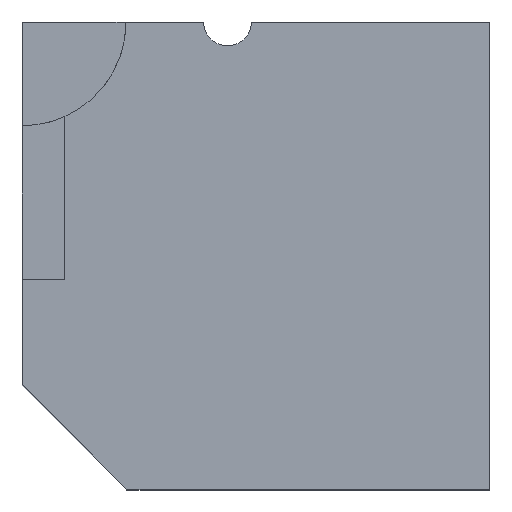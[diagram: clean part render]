
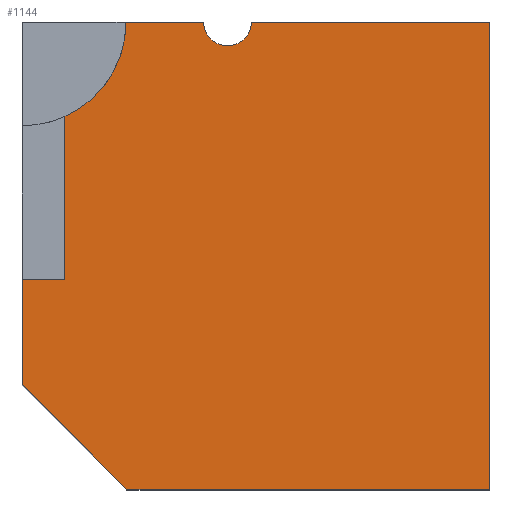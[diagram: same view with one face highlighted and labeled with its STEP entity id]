
A CAD part, top view. The second image highlights one B-rep face of the part: STEP entity #1144.
In plain terms, the highlighted planar face has unit normal (0, 0, 1).
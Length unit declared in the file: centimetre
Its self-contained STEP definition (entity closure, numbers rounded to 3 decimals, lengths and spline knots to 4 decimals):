
#15 = EDGE_CURVE ( 'NONE', #610, #1039, #1037, .T. ) ;
#20 = CARTESIAN_POINT ( 'NONE',  ( 388.025, 1000., 1000. ) ) ;
#23 = EDGE_CURVE ( 'NONE', #610, #762, #595, .T. ) ;
#24 = VERTEX_POINT ( 'NONE', #476 ) ;
#67 = CARTESIAN_POINT ( 'NONE',  ( 0., 1000., 1000. ) ) ;
#68 = DIRECTION ( 'NONE',  ( -1., 0., 0. ) ) ;
#78 = CARTESIAN_POINT ( 'NONE',  ( 0., 1000., 1000. ) ) ;
#87 = DIRECTION ( 'NONE',  ( -1., 0., 0. ) ) ;
#88 = ORIENTED_EDGE ( 'NONE', *, *, #232, .T. ) ;
#91 = LINE ( 'NONE', #612, #990 ) ;
#147 = VERTEX_POINT ( 'NONE', #1027 ) ;
#182 = DIRECTION ( 'NONE',  ( 1., 0., 0. ) ) ;
#183 = AXIS2_PLACEMENT_3D ( 'NONE', #916, #1014, #740 ) ;
#194 = LINE ( 'NONE', #1085, #737 ) ;
#211 = PLANE ( 'NONE',  #183 ) ;
#215 = CARTESIAN_POINT ( 'NONE',  ( 0., 1000., 1000. ) ) ;
#220 = VECTOR ( 'NONE', #383, 100. ) ;
#232 = EDGE_CURVE ( 'NONE', #147, #762, #334, .T. ) ;
#241 = ORIENTED_EDGE ( 'NONE', *, *, #771, .T. ) ;
#243 = DIRECTION ( 'NONE',  ( 1., 0., 0. ) ) ;
#275 = ORIENTED_EDGE ( 'NONE', *, *, #734, .T. ) ;
#308 = VERTEX_POINT ( 'NONE', #942 ) ;
#325 = ORIENTED_EDGE ( 'NONE', *, *, #619, .F. ) ;
#334 = LINE ( 'NONE', #67, #824 ) ;
#347 = CARTESIAN_POINT ( 'NONE',  ( 223.8323, 0., 1000. ) ) ;
#349 = DIRECTION ( 'NONE',  ( 0., 1., 0. ) ) ;
#371 = EDGE_CURVE ( 'NONE', #580, #308, #780, .T. ) ;
#376 = CARTESIAN_POINT ( 'NONE',  ( 0., 223.8323, 1000. ) ) ;
#383 = DIRECTION ( 'NONE',  ( 0.707, -0.707, 0. ) ) ;
#412 = DIRECTION ( 'NONE',  ( 0., 0., 1. ) ) ;
#453 = LINE ( 'NONE', #215, #873 ) ;
#461 = EDGE_CURVE ( 'NONE', #534, #1039, #1080, .T. ) ;
#463 = FACE_OUTER_BOUND ( 'NONE', #774, .T. ) ;
#476 = CARTESIAN_POINT ( 'NONE',  ( 1000., 0., 1000. ) ) ;
#503 = CARTESIAN_POINT ( 'NONE',  ( 0., 449.0948, 1000. ) ) ;
#507 = ORIENTED_EDGE ( 'NONE', *, *, #23, .F. ) ;
#516 = EDGE_CURVE ( 'NONE', #933, #24, #91, .T. ) ;
#534 = VERTEX_POINT ( 'NONE', #970 ) ;
#536 = VECTOR ( 'NONE', #1116, 100. ) ;
#579 = ORIENTED_EDGE ( 'NONE', *, *, #15, .T. ) ;
#580 = VERTEX_POINT ( 'NONE', #1072 ) ;
#591 = EDGE_CURVE ( 'NONE', #24, #147, #622, .T. ) ;
#595 = CIRCLE ( 'NONE', #1079, 51.0101 ) ;
#610 = VERTEX_POINT ( 'NONE', #20 ) ;
#612 = CARTESIAN_POINT ( 'NONE',  ( 0., 0., 1000. ) ) ;
#619 = EDGE_CURVE ( 'NONE', #308, #534, #194, .T. ) ;
#622 = LINE ( 'NONE', #991, #951 ) ;
#642 = LINE ( 'NONE', #1000, #220 ) ;
#728 = VECTOR ( 'NONE', #68, 100. ) ;
#729 = DIRECTION ( 'NONE',  ( 0., -1., 0. ) ) ;
#734 = EDGE_CURVE ( 'NONE', #1149, #933, #642, .T. ) ;
#737 = VECTOR ( 'NONE', #917, 100. ) ;
#740 = DIRECTION ( 'NONE',  ( 1., 0., 0. ) ) ;
#762 = VERTEX_POINT ( 'NONE', #1005 ) ;
#771 = EDGE_CURVE ( 'NONE', #580, #1149, #453, .T. ) ;
#774 = EDGE_LOOP ( 'NONE', ( #325, #978, #241, #275, #842, #870, #88, #507, #579, #992 ) ) ;
#780 = LINE ( 'NONE', #503, #536 ) ;
#824 = VECTOR ( 'NONE', #87, 100. ) ;
#842 = ORIENTED_EDGE ( 'NONE', *, *, #516, .T. ) ;
#870 = ORIENTED_EDGE ( 'NONE', *, *, #591, .T. ) ;
#873 = VECTOR ( 'NONE', #729, 100. ) ;
#881 = AXIS2_PLACEMENT_3D ( 'NONE', #78, #1140, #1065 ) ;
#916 = CARTESIAN_POINT ( 'NONE',  ( 0., 0., 1000. ) ) ;
#917 = DIRECTION ( 'NONE',  ( 0., 1., 0. ) ) ;
#933 = VERTEX_POINT ( 'NONE', #347 ) ;
#942 = CARTESIAN_POINT ( 'NONE',  ( 91.0986, 449.0948, 1000. ) ) ;
#951 = VECTOR ( 'NONE', #349, 100. ) ;
#970 = CARTESIAN_POINT ( 'NONE',  ( 91.0986, 797.6981, 1000. ) ) ;
#978 = ORIENTED_EDGE ( 'NONE', *, *, #371, .F. ) ;
#990 = VECTOR ( 'NONE', #182, 100. ) ;
#991 = CARTESIAN_POINT ( 'NONE',  ( 1000., 1000., 1000. ) ) ;
#992 = ORIENTED_EDGE ( 'NONE', *, *, #461, .F. ) ;
#1000 = CARTESIAN_POINT ( 'NONE',  ( 111.9161, 111.9161, 1000. ) ) ;
#1005 = CARTESIAN_POINT ( 'NONE',  ( 490.0451, 1000., 1000. ) ) ;
#1014 = DIRECTION ( 'NONE',  ( 0., 0., 1. ) ) ;
#1027 = CARTESIAN_POINT ( 'NONE',  ( 1000., 1000., 1000. ) ) ;
#1037 = LINE ( 'NONE', #1044, #728 ) ;
#1039 = VERTEX_POINT ( 'NONE', #1089 ) ;
#1044 = CARTESIAN_POINT ( 'NONE',  ( 0., 1000., 1000. ) ) ;
#1065 = DIRECTION ( 'NONE',  ( 1., 0., 0. ) ) ;
#1072 = CARTESIAN_POINT ( 'NONE',  ( 0., 449.0948, 1000. ) ) ;
#1079 = AXIS2_PLACEMENT_3D ( 'NONE', #1131, #412, #243 ) ;
#1080 = CIRCLE ( 'NONE', #881, 221.8671 ) ;
#1085 = CARTESIAN_POINT ( 'NONE',  ( 91.0986, 449.0948, 1000. ) ) ;
#1089 = CARTESIAN_POINT ( 'NONE',  ( 221.8671, 1000., 1000. ) ) ;
#1116 = DIRECTION ( 'NONE',  ( 1., 0., 0. ) ) ;
#1131 = CARTESIAN_POINT ( 'NONE',  ( 439.035, 1000., 1000. ) ) ;
#1140 = DIRECTION ( 'NONE',  ( 0., 0., 1. ) ) ;
#1144 = ADVANCED_FACE ( 'NONE', ( #463 ), #211, .T. ) ;
#1149 = VERTEX_POINT ( 'NONE', #376 ) ;
